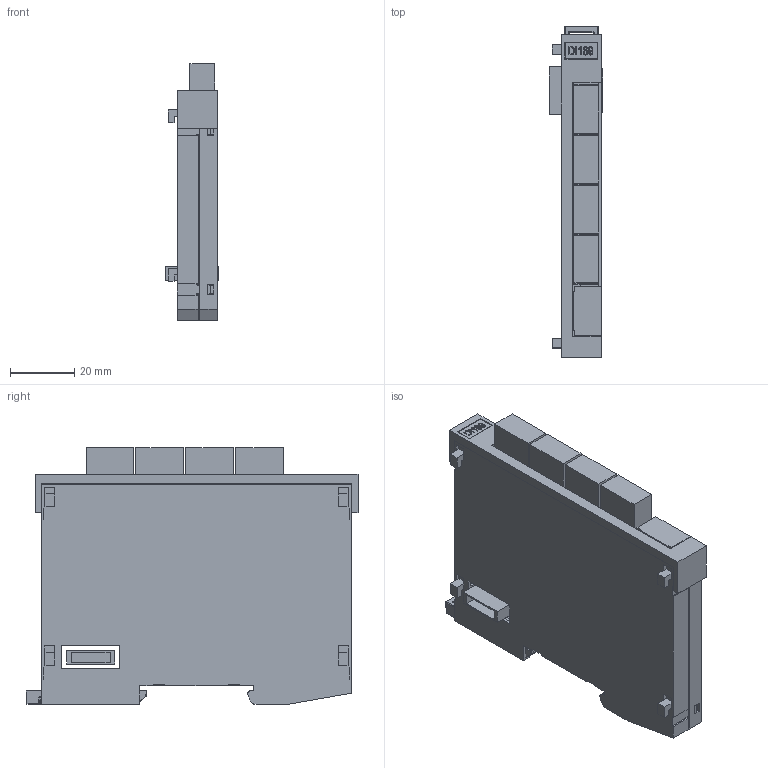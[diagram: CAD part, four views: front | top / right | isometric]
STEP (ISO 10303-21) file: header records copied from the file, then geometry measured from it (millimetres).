
FILE_DESCRIPTION (( 'STEP AP214' ), '1' );
FILE_NAME ('DI169.STEP', '2015-08-18T12:23:11', ( 'SIGMATEK GmbH & Co KG' ), ( 'SIGMATEK GmbH & Co KG' ), 'SwSTEP 2.0', 'SolidWorks 2013', '' );
FILE_SCHEMA (( 'AUTOMOTIVE_DESIGN' ));
Length unit declared in the file: millimetre
Products named in the file (12): Schieber_f Suport; S-Dias Schale rechts_f Suport; S-Dias Schale links_f Suport; 4110251342_MF 10-5 MC CABUR_1854510000; DI169; Steckerabdeckung_Var 9; LP_DI169; Dummy_4110262104 4pol.Federkraftstecker f.2reih 1952283; Dummy_4110251205 4pol.Minicombicon-Grundgehäuse RM3,5 1937512; Dummy_4080225346 Erni Stift; Dummy_4080225345 Erni Buchse; S-Dias Rasthaken 20130313
Assembly tree (17 placements, depth 3):
  DI169
    4110251342_MF 10-5 MC CABUR_1854510000
    S-Dias Schale links_f Suport
    S-Dias Schale rechts_f Suport
    Schieber_f Suport
    S-Dias Rasthaken 20130313
    LP_DI169
      Dummy_4080225345 Erni Buchse
      Dummy_4080225346 Erni Stift
      Dummy_4110251205 4pol.Minicombicon-Grundgehäuse RM3,5 1937512  x4
      Dummy_4110262104 4pol.Federkraftstecker f.2reih 1952283  x4
    Steckerabdeckung_Var 9
Bounding box: 16.8 x 103.61 x 80.15 mm (x, y, z)
Volume: 32379.1 mm3; surface area: 45821.6 mm2
Topology: 16 solids, 16 shells, 926 faces, 2654 edges, 1758 vertices
Faces by surface type: plane 645, cylinder 135, bspline 90, cone 28, torus 15, sphere 13
Entity records: 35903 total; most frequent: CARTESIAN_POINT 10105, ORIENTED_EDGE 5086, DIRECTION 3890, EDGE_CURVE 2543, VECTOR 1806, LINE 1806, VERTEX_POINT 1690, AXIS2_PLACEMENT_3D 1042
